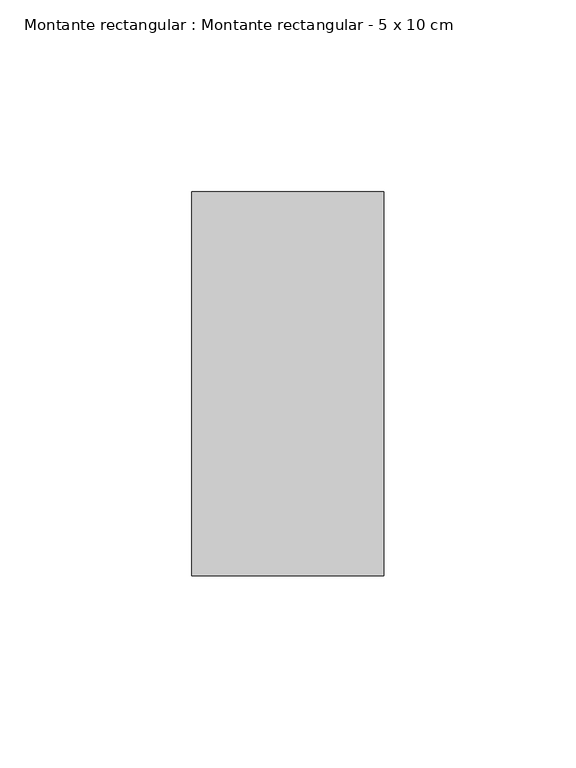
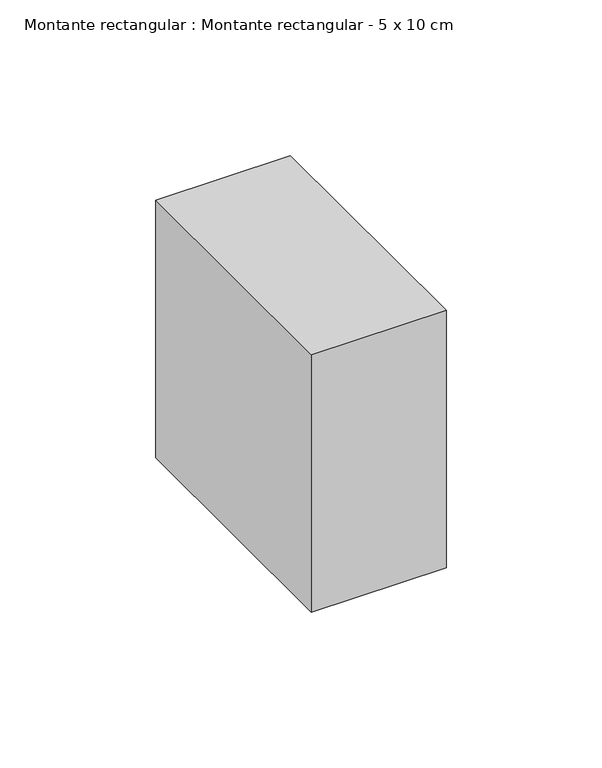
"""IFC4 building model written with IfcOpenShell, lengths in millimetres: member geometry, Montante rectangular : Montante rectangular - 5 x 10 cm."""

from ifc_helpers import new_model, si_unit, frame, origin, place, context, project, spatial, polyline, outline, extrude, source, transform, mapped, element, save


def montante_rectangular_montante_rectangular_5_x_10_cm_e343c20c(model_context):
    return source(origin(), model_context, "Body", "SweptSolid", [
        extrude(outline(polyline([(-50.0, 50.0), (0.0, 50.0), (0.0, -50.0), (-50.0, -50.0), (-50.0, 50.0)])), frame((0.0, 0.0, -100.9731646), z_axis=(0.0, 0.0, 1.0), x_axis=(1.0, 0.0, 0.0)), (0.0, 0.0, 1.0), 100.9731646),
    ])


if __name__ == "__main__":
    model = new_model("IFC4")
    model_context = context("Model", 3, world=origin())
    ifc_project = project(units=[si_unit("LENGTHUNIT", "METRE", prefix="MILLI")], contexts=[model_context])
    site = spatial("IfcSite", under=ifc_project)
    building = spatial("IfcBuilding", under=site)
    placement = place(None, origin())
    montante_rectangular_montante_rectangular_5_x_10_cm_shape = montante_rectangular_montante_rectangular_5_x_10_cm_e343c20c(model_context)
    element("IfcMember", 1, ObjectType="Montante rectangular : Montante rectangular - 5 x 10 cm", at=placement, inside=building, context=model_context, shape_type="MappedRepresentation", body=[
        mapped(montante_rectangular_montante_rectangular_5_x_10_cm_shape, transform((0.0, 0.0, 0.0), x_axis=(1.0, 0.0, 0.0), y_axis=(0.0, 1.0, 0.0), z_axis=(0.0, 0.0, 1.0))),
    ])
    save(model, "model.ifc")
